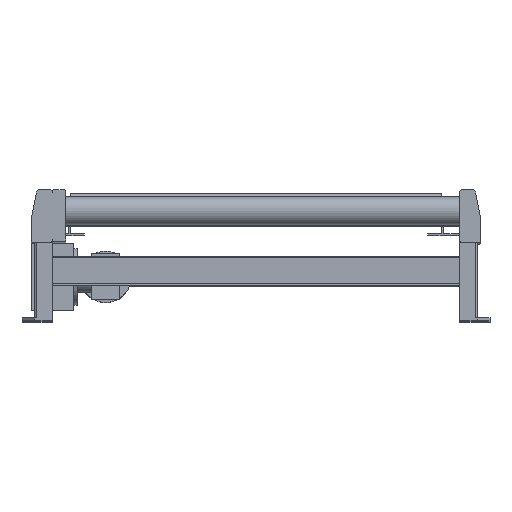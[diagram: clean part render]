
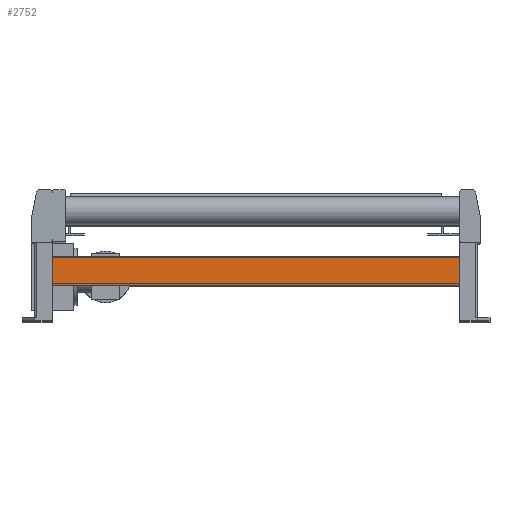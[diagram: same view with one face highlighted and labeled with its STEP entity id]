
A CAD part, top view. The second image highlights one B-rep face of the part: STEP entity #2752.
In plain terms, the highlighted planar face has unit normal (0, 0, 1).
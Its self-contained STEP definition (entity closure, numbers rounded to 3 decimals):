
#2627=CARTESIAN_POINT('',(-575.,-37.,-185.));
#2628=VERTEX_POINT('',#2627);
#2629=CARTESIAN_POINT('',(-575.,-120.0,-185.));
#2630=VERTEX_POINT('',#2629);
#2631=CARTESIAN_POINT('',(-575.,-37.,-185.));
#2632=DIRECTION('',(0.0,-1.0,0.0));
#2633=VECTOR('',#2632,83.0);
#2634=LINE('',#2631,#2633);
#2635=EDGE_CURVE('',#2628,#2630,#2634,.T.);
#2722=CARTESIAN_POINT('',(575.,-120.0,-185.));
#2723=DIRECTION('',(0.0,0.0,1.0));
#2724=DIRECTION('',(0.0,1.0,0.0));
#2725=AXIS2_PLACEMENT_3D('',#2722,#2723,#2724);
#2726=PLANE('',#2725);
#2727=CARTESIAN_POINT('',(575.,-37.,-185.));
#2728=VERTEX_POINT('',#2727);
#2729=CARTESIAN_POINT('',(575.,-120.0,-185.));
#2730=VERTEX_POINT('',#2729);
#2731=CARTESIAN_POINT('',(575.,-37.,-185.));
#2732=DIRECTION('',(0.0,-1.0,0.0));
#2733=VECTOR('',#2732,83.0);
#2734=LINE('',#2731,#2733);
#2735=EDGE_CURVE('',#2728,#2730,#2734,.T.);
#2736=ORIENTED_EDGE('',*,*,#2735,.F.);
#2737=CARTESIAN_POINT('',(575.,-37.,-185.));
#2738=DIRECTION('',(-1.0,0.0,0.0));
#2739=VECTOR('',#2738,1150.0);
#2740=LINE('',#2737,#2739);
#2741=EDGE_CURVE('',#2728,#2628,#2740,.T.);
#2742=ORIENTED_EDGE('',*,*,#2741,.T.);
#2743=ORIENTED_EDGE('',*,*,#2635,.T.);
#2744=CARTESIAN_POINT('',(575.,-120.0,-185.));
#2745=DIRECTION('',(-1.0,0.0,0.0));
#2746=VECTOR('',#2745,1150.0);
#2747=LINE('',#2744,#2746);
#2748=EDGE_CURVE('',#2730,#2630,#2747,.T.);
#2749=ORIENTED_EDGE('',*,*,#2748,.F.);
#2750=EDGE_LOOP('',(#2736,#2742,#2743,#2749));
#2751=FACE_OUTER_BOUND('',#2750,.T.);
#2752=ADVANCED_FACE('',(#2751),#2726,.T.);
